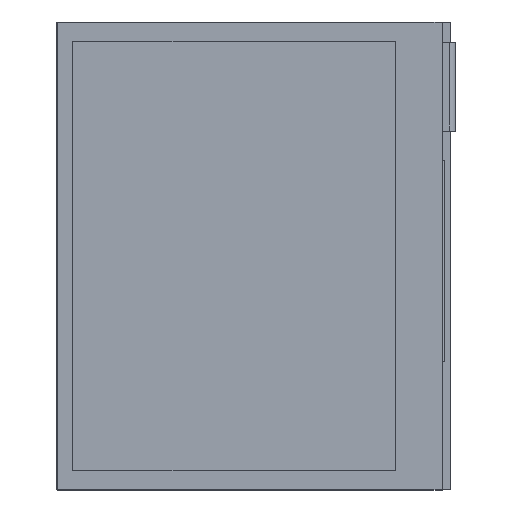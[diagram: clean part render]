
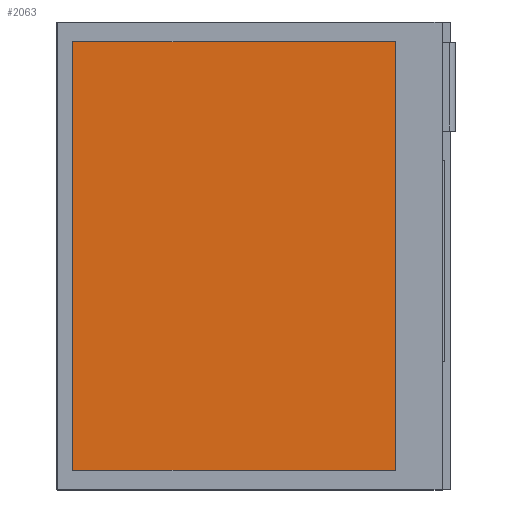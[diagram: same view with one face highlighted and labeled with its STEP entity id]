
A CAD part, top view. The second image highlights one B-rep face of the part: STEP entity #2063.
In plain terms, the highlighted planar face has unit normal (0, 0, 1).
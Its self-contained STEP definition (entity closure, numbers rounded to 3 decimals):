
#831=DIRECTION('',(0.,-1.,0.));
#832=VECTOR('',#831,70.67);
#833=CARTESIAN_POINT('',(-29.205,35.335,-0.02));
#834=LINE('',#833,#832);
#838=DIRECTION('',(-1.,0.,0.));
#839=VECTOR('',#838,53.27);
#840=CARTESIAN_POINT('',(24.065,35.335,-0.02));
#841=LINE('',#840,#839);
#845=DIRECTION('',(0.,1.,0.));
#846=VECTOR('',#845,70.67);
#847=CARTESIAN_POINT('',(24.065,-35.335,-0.02));
#848=LINE('',#847,#846);
#852=DIRECTION('',(1.,0.,0.));
#853=VECTOR('',#852,53.27);
#854=CARTESIAN_POINT('',(-29.205,-35.335,-0.02));
#855=LINE('',#854,#853);
#875=CARTESIAN_POINT('',(-29.205,35.335,-0.02));
#876=CARTESIAN_POINT('',(-29.205,-35.335,-0.02));
#877=VERTEX_POINT('',#875);
#878=VERTEX_POINT('',#876);
#879=CARTESIAN_POINT('',(24.065,-35.335,-0.02));
#880=VERTEX_POINT('',#879);
#881=CARTESIAN_POINT('',(24.065,35.335,-0.02));
#882=VERTEX_POINT('',#881);
#2052=CARTESIAN_POINT('',(0.,0.,-0.02));
#2053=DIRECTION('',(0.,0.,1.));
#2054=DIRECTION('',(0.,-1.,0.));
#2055=AXIS2_PLACEMENT_3D('',#2052,#2053,#2054);
#2056=PLANE('',#2055);
#2057=ORIENTED_EDGE('',*,*,#2004,.F.);
#2058=ORIENTED_EDGE('',*,*,#2019,.F.);
#2059=ORIENTED_EDGE('',*,*,#2033,.F.);
#2060=ORIENTED_EDGE('',*,*,#2046,.F.);
#2061=EDGE_LOOP('',(#2057,#2058,#2059,#2060));
#2062=FACE_OUTER_BOUND('',#2061,.F.);
#2063=ADVANCED_FACE('',(#2062),#2056,.T.);
#2004=EDGE_CURVE('',#877,#878,#834,.T.);
#2019=EDGE_CURVE('',#882,#877,#841,.T.);
#2033=EDGE_CURVE('',#880,#882,#848,.T.);
#2046=EDGE_CURVE('',#878,#880,#855,.T.);
